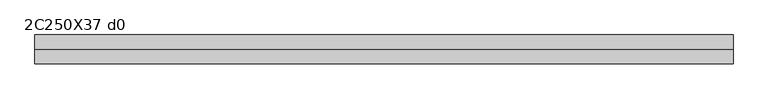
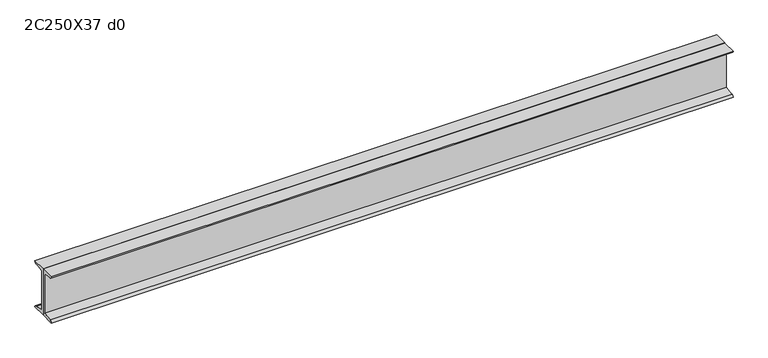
"""IFC4 building model written with IfcOpenShell, lengths in millimetres: beam geometry, Profilato a doppia C : 2C250X37 d0."""

from ifc_helpers import new_model, si_unit, point, frame, frame_2d, origin, place, context, project, spatial, polyline, circle_curve, trimmed, segment, composite_curve, outline, extrude, source, transform, mapped, element, save


def beam_2c250x37_d0_528e7289(model_context):
    return source(origin(), model_context, "Body", "SweptSolid", [
        extrude(outline(composite_curve([segment(polyline([(0.5, 127.0), (73.8, 127.0)]), True, "CONTINUOUS"), segment(trimmed(circle_curve(frame_2d((62.7, 127.0)), 11.1), [point((73.8, 127.0))], [point((62.7, 115.9))], False, "CARTESIAN"), True, "CONTINUOUS"), segment(polyline([(62.7, 115.9), (13.9, 108.1708393), (13.9, -108.1708393), (62.7, -115.9)]), True, "CONTINUOUS"), segment(trimmed(circle_curve(frame_2d((62.7, -127.0)), 11.1), [point((62.7, -115.9))], [point((73.8, -127.0))], False, "CARTESIAN"), True, "CONTINUOUS"), segment(polyline([(73.8, -127.0), (0.5, -127.0), (0.5, 127.0)]), True, "CONTINUOUS")], self_intersect=False)), frame((-1782.5, 0.0, 0.0), z_axis=(1.0, 0.0, 0.0), x_axis=(0.0, 1.0, 0.0)), (0.0, 0.0, 1.0), 3554.0),
        extrude(outline(composite_curve([segment(polyline([(-0.5, 127.0), (-0.5, -127.0), (-73.8, -127.0)]), True, "CONTINUOUS"), segment(trimmed(circle_curve(frame_2d((-62.7, -127.0)), 11.1), [point((-73.8, -127.0))], [point((-62.7, -115.9))], False, "CARTESIAN"), True, "CONTINUOUS"), segment(polyline([(-62.7, -115.9), (-13.9, -108.1708393), (-13.9, 108.1708393), (-62.7, 115.9)]), True, "CONTINUOUS"), segment(trimmed(circle_curve(frame_2d((-62.7, 127.0)), 11.1), [point((-62.7, 115.9))], [point((-73.8, 127.0))], False, "CARTESIAN"), True, "CONTINUOUS"), segment(polyline([(-73.8, 127.0), (-0.5, 127.0)]), True, "CONTINUOUS")], self_intersect=False)), frame((-1782.5, 0.0, 0.0), z_axis=(1.0, 0.0, 0.0), x_axis=(0.0, 1.0, 0.0)), (0.0, 0.0, 1.0), 3554.0),
    ])


if __name__ == "__main__":
    model = new_model("IFC4")
    model_context = context("Model", 3, world=origin())
    ifc_project = project(units=[si_unit("LENGTHUNIT", "METRE", prefix="MILLI")], contexts=[model_context])
    site = spatial("IfcSite", under=ifc_project)
    building = spatial("IfcBuilding", under=site)
    placement = place(None, origin())
    beam_2c250x37_d0_shape = beam_2c250x37_d0_528e7289(model_context)
    element("IfcBeam", 1, ObjectType="Profilato a doppia C : 2C250X37 d0", at=placement, inside=building, context=model_context, shape_type="MappedRepresentation", body=[
        mapped(beam_2c250x37_d0_shape, transform((0.0, 0.0, 0.0), x_axis=(1.0, 0.0, 0.0), y_axis=(0.0, 1.0, 0.0), z_axis=(0.0, 0.0, 1.0))),
    ])
    save(model, "model.ifc")
